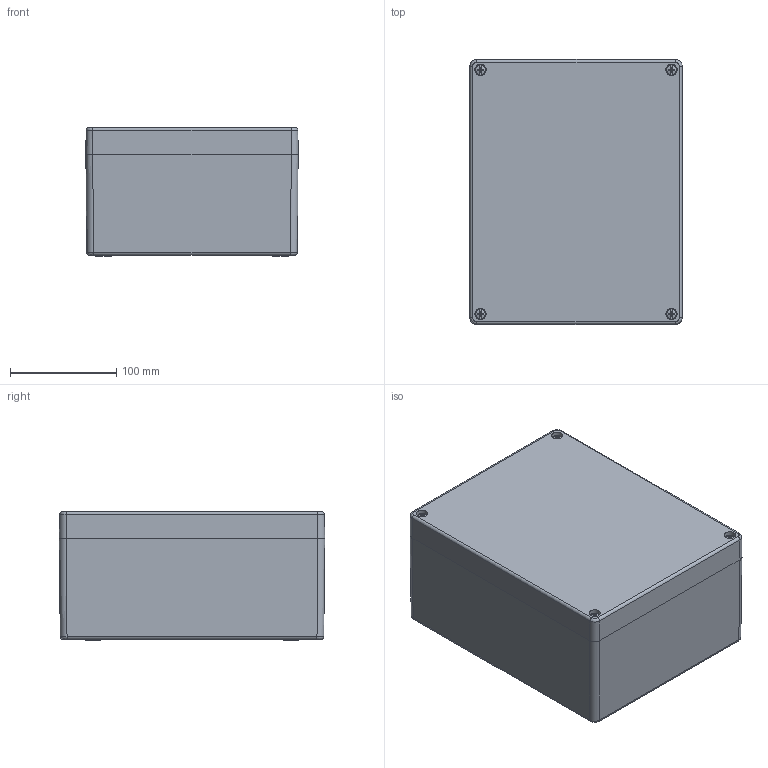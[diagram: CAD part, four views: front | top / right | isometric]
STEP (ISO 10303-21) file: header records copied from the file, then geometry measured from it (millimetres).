
FILE_DESCRIPTION(/* description */ (''),/* implementation_level */ '2;1');
FILE_NAME(/* name */ 'E:\Eng\Customer Service\Drawings\working on 1590ZGRP\STEP\1590ZGRP233\1590ZGRP233.iam.stp',/* time_stamp */ '2016-02-02T08:21:10-05:00',/* author */ ('kbond'),/* organization */ (''),/* preprocessor_version */ 'ST-DEVELOPER v16.1',/* originating_system */ 'Autodesk Inventor 2016',/* authorisation */ '');
FILE_SCHEMA (('AUTOMOTIVE_DESIGN { 1 0 10303 214 3 1 1 }'));
Length unit declared in the file: millimetre
Products named in the file (6): 1590ZGRP233 box; 1590ZGRP233 lid; 1590ZGRP233PL; 1590ZGRP233 GASKET; (screw M6-1X 30mm PN); 1590ZGRP233
Assembly tree (8 placements, depth 2):
  1590ZGRP233
    1590ZGRP233 box
    1590ZGRP233 lid
    1590ZGRP233PL
    1590ZGRP233 GASKET
    (screw M6-1X 30mm PN)  x4
Bounding box: 200 x 250 x 121.1 mm (x, y, z)
Volume: 1422560.5 mm3; surface area: 517843.3 mm2
Topology: 8 solids, 8 shells, 495 faces, 1240 edges, 802 vertices
Faces by surface type: plane 253, cylinder 90, cone 84, torus 52, bspline 8, sphere 8
Full cylindrical faces by diameter (mm): 4.6 x8, 4.917 x10, 5.28 x4, 5.88 x4, 6 x4, 6.4 x4, 6.6 x4, 7 x6, 10.8 x4
Entity records: 11557 total; most frequent: CARTESIAN_POINT 2160, DIRECTION 2048, ORIENTED_EDGE 1758, EDGE_CURVE 879, AXIS2_PLACEMENT_3D 789, VERTEX_POINT 597, EDGE_LOOP 518, LINE 470
